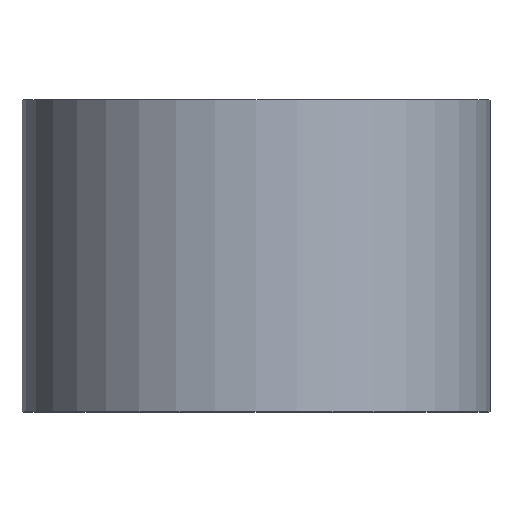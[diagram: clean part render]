
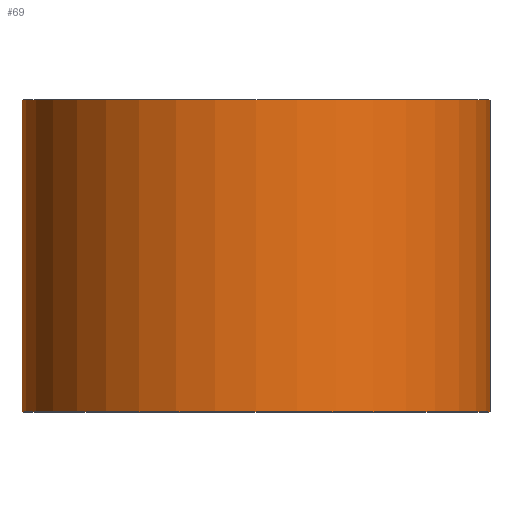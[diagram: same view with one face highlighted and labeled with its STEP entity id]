
A CAD part, top view. The second image highlights one B-rep face of the part: STEP entity #69.
In plain terms, the highlighted cylindrical face has radius 9 mm (diameter 18 mm), a partial arc.
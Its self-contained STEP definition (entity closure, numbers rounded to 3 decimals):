
#17 = VERTEX_POINT ( 'NONE', #129 ) ;
#37 = CIRCLE ( 'NONE', #251, 9. ) ;
#47 = EDGE_LOOP ( 'NONE', ( #146, #281, #214, #198 ) ) ;
#48 = AXIS2_PLACEMENT_3D ( 'NONE', #270, #295, #222 ) ;
#52 = EDGE_CURVE ( 'NONE', #185, #80, #94, .T. ) ;
#63 = DIRECTION ( 'NONE',  ( 0., 1., 0. ) ) ;
#67 = LINE ( 'NONE', #154, #248 ) ;
#69 = ADVANCED_FACE ( 'NONE', ( #231 ), #130, .T. ) ;
#80 = VERTEX_POINT ( 'NONE', #101 ) ;
#82 = EDGE_CURVE ( 'NONE', #185, #17, #67, .T. ) ;
#84 = DIRECTION ( 'NONE',  ( -1., 0., 0. ) ) ;
#94 = CIRCLE ( 'NONE', #218, 9. ) ;
#99 = DIRECTION ( 'NONE',  ( 0., 1., 0. ) ) ;
#101 = CARTESIAN_POINT ( 'NONE',  ( 9., 0., 0. ) ) ;
#105 = DIRECTION ( 'NONE',  ( 0., 1., 0. ) ) ;
#114 = EDGE_CURVE ( 'NONE', #80, #131, #280, .T. ) ;
#127 = CARTESIAN_POINT ( 'NONE',  ( 9., 12., 0. ) ) ;
#129 = CARTESIAN_POINT ( 'NONE',  ( -9., 12., 0. ) ) ;
#130 = CYLINDRICAL_SURFACE ( 'NONE', #48, 9. ) ;
#131 = VERTEX_POINT ( 'NONE', #127 ) ;
#146 = ORIENTED_EDGE ( 'NONE', *, *, #52, .T. ) ;
#152 = CARTESIAN_POINT ( 'NONE',  ( 9., 0., 0. ) ) ;
#154 = CARTESIAN_POINT ( 'NONE',  ( -9., 0., 0. ) ) ;
#179 = EDGE_CURVE ( 'NONE', #17, #131, #37, .T. ) ;
#182 = DIRECTION ( 'NONE',  ( 0., 1., 0. ) ) ;
#185 = VERTEX_POINT ( 'NONE', #230 ) ;
#198 = ORIENTED_EDGE ( 'NONE', *, *, #82, .F. ) ;
#211 = CARTESIAN_POINT ( 'NONE',  ( 0., 12., 0. ) ) ;
#214 = ORIENTED_EDGE ( 'NONE', *, *, #179, .F. ) ;
#218 = AXIS2_PLACEMENT_3D ( 'NONE', #223, #105, #243 ) ;
#222 = DIRECTION ( 'NONE',  ( -1., 0., 0. ) ) ;
#223 = CARTESIAN_POINT ( 'NONE',  ( 0., 0., 0. ) ) ;
#230 = CARTESIAN_POINT ( 'NONE',  ( -9., 0., 0. ) ) ;
#231 = FACE_OUTER_BOUND ( 'NONE', #47, .T. ) ;
#238 = VECTOR ( 'NONE', #182, 1000. ) ;
#243 = DIRECTION ( 'NONE',  ( -1., 0., 0. ) ) ;
#248 = VECTOR ( 'NONE', #99, 1000. ) ;
#251 = AXIS2_PLACEMENT_3D ( 'NONE', #211, #63, #84 ) ;
#270 = CARTESIAN_POINT ( 'NONE',  ( 0., 0., 0. ) ) ;
#280 = LINE ( 'NONE', #152, #238 ) ;
#281 = ORIENTED_EDGE ( 'NONE', *, *, #114, .T. ) ;
#295 = DIRECTION ( 'NONE',  ( 0., 1., 0. ) ) ;
